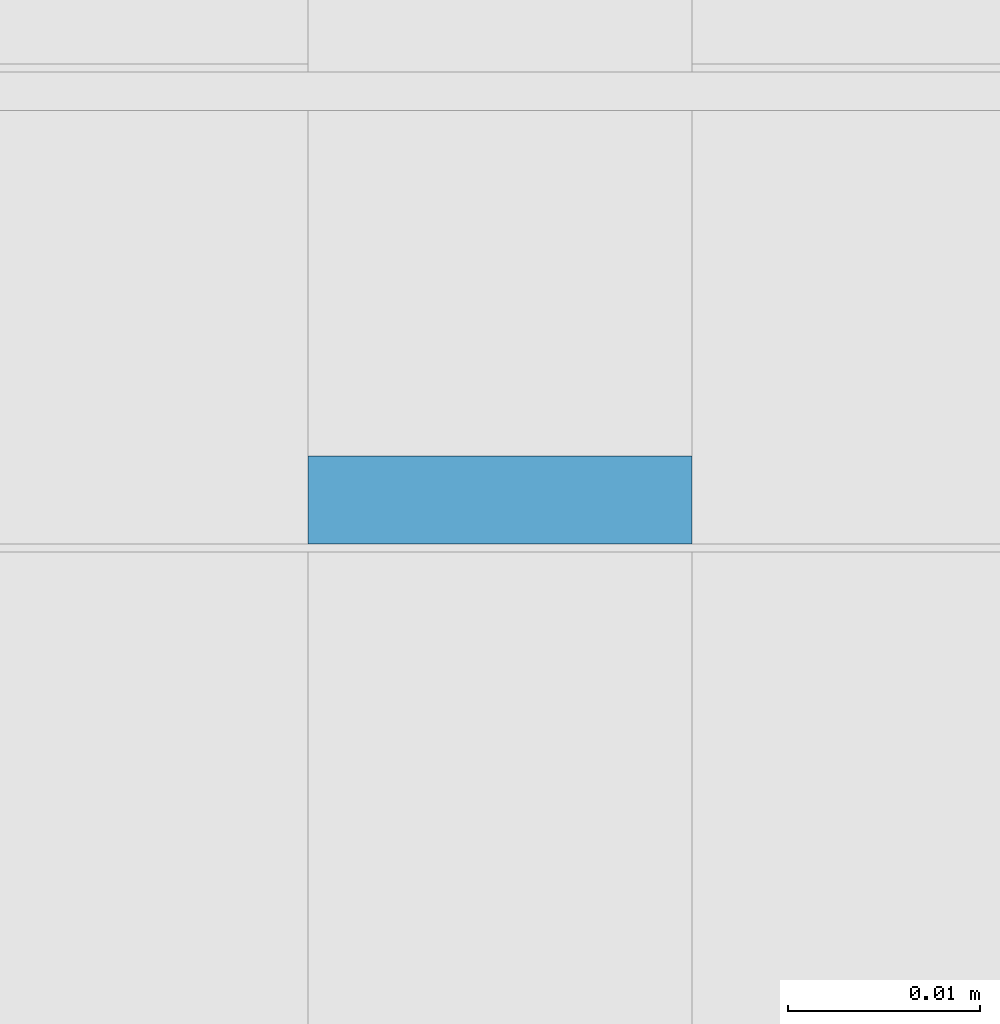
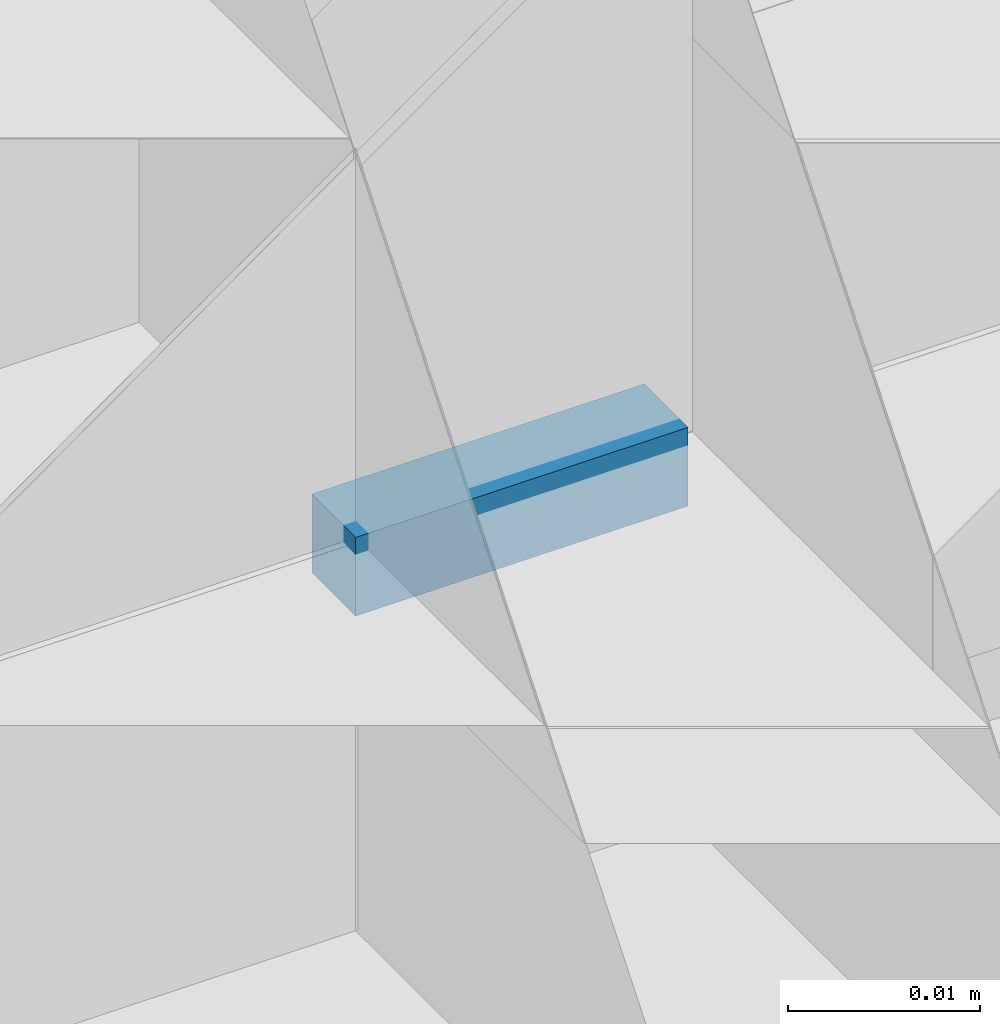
# One storey, part 71 of 390: 1 discrete accessory, 1 element without a shape of its own.
"""IFC2X3 building model written with IfcOpenShell, lengths in millimetres."""

from ifc_helpers import new_model, entity, si_unit, converted_unit, derived_unit, money_unit, direction, frame, origin_with_axes, place, context, subcontext, project, spatial, polyline, outline, extrude, material, type_object, element, aggregate, save


model = new_model("IFC2X3")

# Units and contexts
model_context = context("Model", 3, precision=1e-05, world=origin_with_axes(), true_north=direction((0.0, 1.0)))
body_context = subcontext(model_context, "Body", "Model", "MODEL_VIEW")
ifc_project = project(units=[si_unit("LENGTHUNIT", "METRE", prefix="MILLI"), si_unit("AREAUNIT", "SQUARE_METRE"), si_unit("VOLUMEUNIT", "CUBIC_METRE"), converted_unit("PLANEANGLEUNIT", "DEGREE", entity("IfcPlaneAngleMeasure", 0.0174532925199), si_unit("PLANEANGLEUNIT", "RADIAN"), dimensions=[0, 0, 0, 0, 0, 0, 0]), si_unit("SOLIDANGLEUNIT", "STERADIAN"), money_unit("EUR"), converted_unit("TIMEUNIT", "Year", entity("IfcTimeMeasure", 31556926.0), si_unit("TIMEUNIT", "SECOND"), dimensions=[0, 0, 1, 0, 0, 0, 0]), si_unit("MASSUNIT", "GRAM", prefix="KILO"), si_unit("THERMODYNAMICTEMPERATUREUNIT", "DEGREE_CELSIUS"), si_unit("LUMINOUSINTENSITYUNIT", "LUMEN"), si_unit("ENERGYUNIT", "JOULE", prefix="MEGA"), derived_unit("THERMALCONDUCTANCEUNIT", [(si_unit("POWERUNIT", "WATT"), 1), (si_unit("LENGTHUNIT", "METRE"), -1), (si_unit("THERMODYNAMICTEMPERATUREUNIT", "KELVIN"), -1)]), derived_unit("SPECIFICHEATCAPACITYUNIT", [(si_unit("ENERGYUNIT", "JOULE"), 1), (si_unit("MASSUNIT", "GRAM", prefix="KILO"), -1), (si_unit("THERMODYNAMICTEMPERATUREUNIT", "KELVIN"), -1)]), derived_unit("MASSDENSITYUNIT", [(si_unit("MASSUNIT", "GRAM", prefix="KILO"), 1), (si_unit("VOLUMEUNIT", "CUBIC_METRE"), -1)])], contexts=[model_context])

# Site, building, storey
site_placement = place(None, origin_with_axes())
site = spatial("IfcSite", under=ifc_project, at=site_placement, Name="Site", CompositionType="ELEMENT")
building_placement = place(site_placement, origin_with_axes())
building = spatial("IfcBuilding", under=site, at=building_placement, Name="Building", CompositionType="ELEMENT")
storey_placement = place(building_placement, origin_with_axes())
storey = spatial("IfcBuildingStorey", under=building, at=storey_placement, Name="1 korrus", CompositionType="ELEMENT", Elevation=0.0)

# Curtain wall, discrete accessory
curtain_wall_type = type_object("IfcCurtainWallType", Name="KLF-14", PredefinedType="NOTDEFINED")
curtain_wall_placement = place(storey_placement, frame((122599.999993, 59672.5295083, -0.000201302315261), z_axis=(0.0, 0.0, 1.0), x_axis=(1.0, 0.0, 0.0)))
curtain_wall = element("IfcCurtainWall", 1, at=curtain_wall_placement, inside=storey, type_object=curtain_wall_type, Name="Klaasfassaad")
ifc_material = material(Name="Klaas")
discrete_accessory_type = type_object("IfcDiscreteAccessoryType", Name="Distinct Panel 5 x 5 x 20")
discrete_accessory_placement = place(curtain_wall_placement, frame((3.72324393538e-08, -218.816980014, 2572.50007415), z_axis=(0.0, 0.0, 1.0), x_axis=(1.7016819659e-10, -1.0, 0.0)))
discrete_accessory = element("IfcDiscreteAccessory", 2, at=discrete_accessory_placement, type_object=discrete_accessory_type, material=ifc_material, Name="KLF-14 klaaspakett", context=body_context, shape_type="SweptSolid", body=[
    extrude(outline(polyline([(11.143548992, -12.5000547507), (15.7125302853, -12.5000547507), (15.7125302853, -7.49998829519), (11.143548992, -7.49998829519), (11.143548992, -12.5000547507)])), frame((0.0, -10.0, 0.0), z_axis=(0.0, 1.0, 0.0), x_axis=(1.0, 0.0, 0.0)), (0.0, 0.0, 1.0), 20.0),
])
aggregate(curtain_wall, [discrete_accessory])

save(model, "model.ifc")
